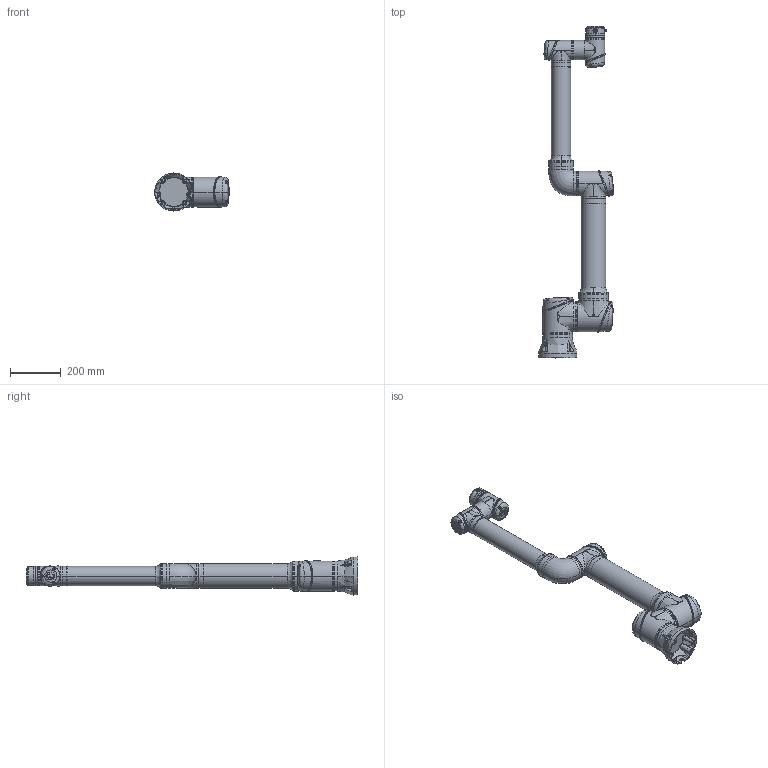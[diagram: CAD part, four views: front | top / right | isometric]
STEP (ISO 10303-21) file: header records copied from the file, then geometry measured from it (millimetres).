
FILE_DESCRIPTION (( 'STEP AP203' ), '1' );
FILE_NAME ('CS_掛极CS56H_V1.2.STEP', '2025-04-15T13:20:41', ( '' ), ( '' ), 'SwSTEP 2.0', 'SolidWorks 2017', '' );
FILE_SCHEMA (( 'CONFIG_CONTROL_DESIGN' ));
Products named in the file (7): CS56H-Base; CS56h_Link4; CS56H-Flange; CS56H_Link3; CS_掛极CS56H_V1.2; CS56H-Link1; CS56h_Link2
Assembly tree (6 placements, depth 2):
  CS_掛极CS56H_V1.2
    CS56H-Base
    CS56H-Link1
    CS56h_Link2
    CS56H_Link3
    CS56h_Link4
    CS56H-Flange
Bounding box: 293.64 x 1307.5 x 149.7 mm (x, y, z)
Volume: 12653396.3 mm3; surface area: 932086.8 mm2
Topology: 61 solids, 66 shells, 4246 faces, 10301 edges, 6224 vertices
Faces by surface type: bspline 2026, plane 1008, cylinder 679, cone 296, sphere 124, torus 113
Entity records: 584979 total; most frequent: CARTESIAN_POINT 502273, ORIENTED_EDGE 20210, DIRECTION 12539, EDGE_CURVE 10105, VERTEX_POINT 6201, AXIS2_PLACEMENT_3D 5234, B_SPLINE_CURVE_WITH_KNOTS 4605, EDGE_LOOP 4520
